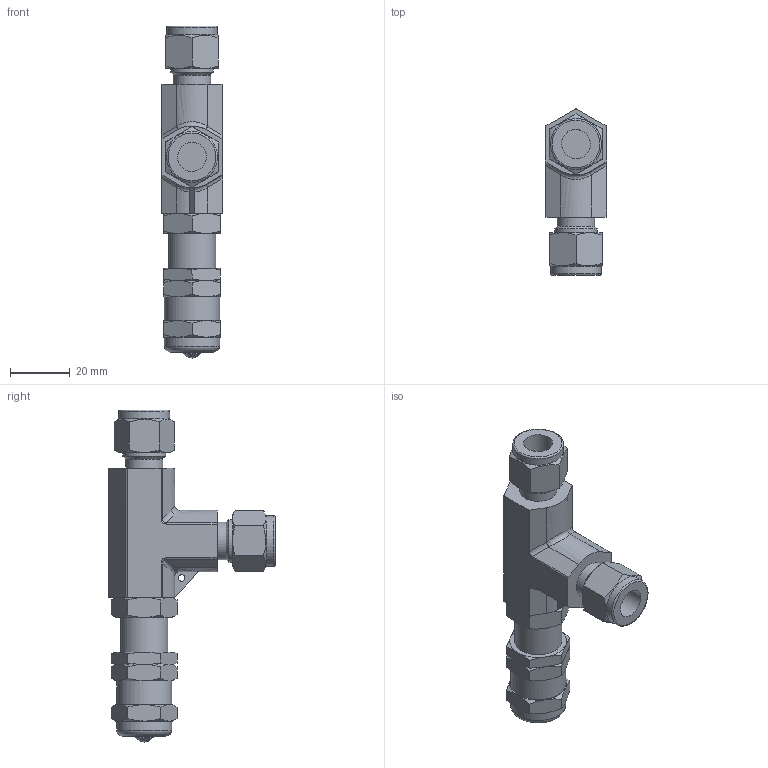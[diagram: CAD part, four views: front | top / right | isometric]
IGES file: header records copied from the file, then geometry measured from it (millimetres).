
Global section: file name: SRV-S6; native system: Autodesk Inventor 2016; preprocessor: unknown; author: 이승민,,11,0; organization: 20161227.102534; date: 20161229.080823; units: millimetre
Bounding box: 20.6 x 55.63 x 111.12 mm (x, y, z)
Volume: 35143.6 mm3; surface area: 16241.6 mm2
Topology: 7 solids, 7 shells, 223 faces, 537 edges, 347 vertices
Faces by surface type: bspline 223
